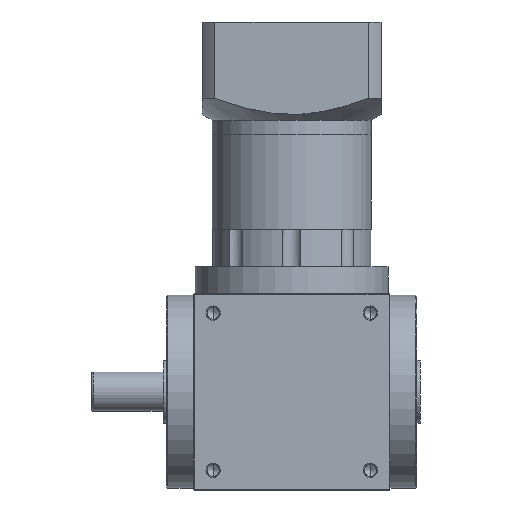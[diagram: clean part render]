
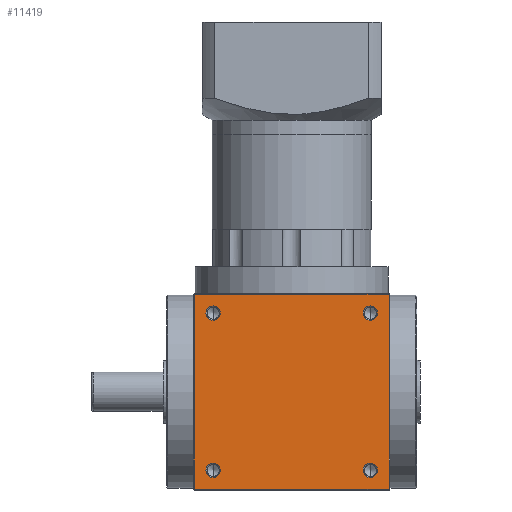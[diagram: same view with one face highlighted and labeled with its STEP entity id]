
A CAD part, front view. The second image highlights one B-rep face of the part: STEP entity #11419.
In plain terms, the highlighted planar face has unit normal (0, -1, 0).
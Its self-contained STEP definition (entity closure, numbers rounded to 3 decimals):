
#298 = EDGE_CURVE ( 'NONE', #53204, #52734, #40388, .T. ) ;
#470 = VECTOR ( 'NONE', #57929, 1000. ) ;
#1123 = DIRECTION ( 'NONE',  ( 0., -1., 0. ) ) ;
#1604 = EDGE_CURVE ( 'NONE', #57596, #33263, #49870, .T. ) ;
#1975 = CARTESIAN_POINT ( 'NONE',  ( 48.025, -55., 11. ) ) ;
#4214 = EDGE_CURVE ( 'NONE', #14198, #54497, #50843, .T. ) ;
#4558 = EDGE_CURVE ( 'NONE', #33263, #57596, #18813, .T. ) ;
#4854 = LINE ( 'NONE', #14143, #22149 ) ;
#5486 = ORIENTED_EDGE ( 'NONE', *, *, #51640, .F. ) ;
#5543 = ORIENTED_EDGE ( 'NONE', *, *, #47655, .F. ) ;
#5616 = LINE ( 'NONE', #16375, #28642 ) ;
#6677 = AXIS2_PLACEMENT_3D ( 'NONE', #10328, #41986, #14937 ) ;
#7039 = CARTESIAN_POINT ( 'NONE',  ( -44., -55., 99. ) ) ;
#8864 = EDGE_CURVE ( 'NONE', #52734, #53204, #42309, .T. ) ;
#9305 = AXIS2_PLACEMENT_3D ( 'NONE', #37489, #37379, #37258 ) ;
#9416 = EDGE_LOOP ( 'NONE', ( #11271, #11679 ) ) ;
#9746 = CIRCLE ( 'NONE', #6677, 4.025 ) ;
#10328 = CARTESIAN_POINT ( 'NONE',  ( -44., -55., 99. ) ) ;
#11032 = CARTESIAN_POINT ( 'NONE',  ( 39.975, -55., 99. ) ) ;
#11271 = ORIENTED_EDGE ( 'NONE', *, *, #23111, .F. ) ;
#11354 = LINE ( 'NONE', #13397, #470 ) ;
#11419 = ADVANCED_FACE ( 'NONE', ( #16734, #50922, #27514, #39398, #40789 ), #16834, .F. ) ;
#11679 = ORIENTED_EDGE ( 'NONE', *, *, #47392, .F. ) ;
#11684 = DIRECTION ( 'NONE',  ( 1., 0., 0. ) ) ;
#11965 = CARTESIAN_POINT ( 'NONE',  ( -39.975, -55., 11. ) ) ;
#12004 = ORIENTED_EDGE ( 'NONE', *, *, #17728, .F. ) ;
#12458 = EDGE_LOOP ( 'NONE', ( #16208, #47914 ) ) ;
#13397 = CARTESIAN_POINT ( 'NONE',  ( -54.5, -55., 110. ) ) ;
#14078 = CIRCLE ( 'NONE', #45127, 4.025 ) ;
#14143 = CARTESIAN_POINT ( 'NONE',  ( -55., -55., 109.5 ) ) ;
#14198 = VERTEX_POINT ( 'NONE', #50134 ) ;
#14937 = DIRECTION ( 'NONE',  ( 1., 0., 0. ) ) ;
#15940 = EDGE_LOOP ( 'NONE', ( #12004, #5543, #53519, #5486 ) ) ;
#16208 = ORIENTED_EDGE ( 'NONE', *, *, #298, .F. ) ;
#16375 = CARTESIAN_POINT ( 'NONE',  ( 54.5, -55., 110. ) ) ;
#16657 = DIRECTION ( 'NONE',  ( 0., 0., 1. ) ) ;
#16712 = DIRECTION ( 'NONE',  ( 0., 1., 0. ) ) ;
#16734 = FACE_BOUND ( 'NONE', #28481, .T. ) ;
#16834 = PLANE ( 'NONE',  #42585 ) ;
#16852 = CARTESIAN_POINT ( 'NONE',  ( -55., -55., 110. ) ) ;
#17728 = EDGE_CURVE ( 'NONE', #31740, #42758, #4854, .T. ) ;
#18813 = CIRCLE ( 'NONE', #9305, 4.025 ) ;
#20458 = VERTEX_POINT ( 'NONE', #11032 ) ;
#21335 = CARTESIAN_POINT ( 'NONE',  ( -54.5, -55., 109.5 ) ) ;
#21439 = CIRCLE ( 'NONE', #23681, 4.025 ) ;
#22134 = DIRECTION ( 'NONE',  ( 1., 0., 0. ) ) ;
#22142 = DIRECTION ( 'NONE',  ( 0., -1., 0. ) ) ;
#22149 = VECTOR ( 'NONE', #45548, 1000. ) ;
#22223 = CARTESIAN_POINT ( 'NONE',  ( -44., -55., 11. ) ) ;
#23111 = EDGE_CURVE ( 'NONE', #32199, #20458, #14078, .T. ) ;
#23605 = CARTESIAN_POINT ( 'NONE',  ( 39.975, -55., 11. ) ) ;
#23681 = AXIS2_PLACEMENT_3D ( 'NONE', #28677, #1123, #33191 ) ;
#25635 = DIRECTION ( 'NONE',  ( 0., 0., -1. ) ) ;
#26147 = EDGE_LOOP ( 'NONE', ( #33719, #27797 ) ) ;
#27012 = DIRECTION ( 'NONE',  ( 0., -1., 0. ) ) ;
#27514 = FACE_BOUND ( 'NONE', #26147, .T. ) ;
#27797 = ORIENTED_EDGE ( 'NONE', *, *, #39003, .F. ) ;
#28339 = CARTESIAN_POINT ( 'NONE',  ( -48.025, -55., 99. ) ) ;
#28481 = EDGE_LOOP ( 'NONE', ( #57281, #40175 ) ) ;
#28642 = VECTOR ( 'NONE', #25635, 1000. ) ;
#28677 = CARTESIAN_POINT ( 'NONE',  ( 44., -55., 99. ) ) ;
#30886 = CARTESIAN_POINT ( 'NONE',  ( -54.5, -55., 0.5 ) ) ;
#31740 = VERTEX_POINT ( 'NONE', #21335 ) ;
#31811 = DIRECTION ( 'NONE',  ( 1., 0., 0. ) ) ;
#31865 = DIRECTION ( 'NONE',  ( 0., -1., 0. ) ) ;
#31876 = CARTESIAN_POINT ( 'NONE',  ( 44., -55., 11. ) ) ;
#31997 = DIRECTION ( 'NONE',  ( 1., 0., 0. ) ) ;
#32192 = DIRECTION ( 'NONE',  ( 0., -1., 0. ) ) ;
#32199 = VERTEX_POINT ( 'NONE', #55668 ) ;
#32386 = CARTESIAN_POINT ( 'NONE',  ( -44., -55., 11. ) ) ;
#32986 = VERTEX_POINT ( 'NONE', #53665 ) ;
#33191 = DIRECTION ( 'NONE',  ( 1., 0., 0. ) ) ;
#33263 = VERTEX_POINT ( 'NONE', #1975 ) ;
#33719 = ORIENTED_EDGE ( 'NONE', *, *, #38186, .F. ) ;
#34285 = AXIS2_PLACEMENT_3D ( 'NONE', #32386, #32192, #31997 ) ;
#34365 = CARTESIAN_POINT ( 'NONE',  ( 54.5, -55., 109.5 ) ) ;
#35911 = AXIS2_PLACEMENT_3D ( 'NONE', #31876, #31865, #31811 ) ;
#36604 = VERTEX_POINT ( 'NONE', #28339 ) ;
#37258 = DIRECTION ( 'NONE',  ( 1., 0., 0. ) ) ;
#37379 = DIRECTION ( 'NONE',  ( 0., -1., 0. ) ) ;
#37489 = CARTESIAN_POINT ( 'NONE',  ( 44., -55., 11. ) ) ;
#38186 = EDGE_CURVE ( 'NONE', #32986, #36604, #55812, .T. ) ;
#38860 = DIRECTION ( 'NONE',  ( 0., -1., 0. ) ) ;
#39003 = EDGE_CURVE ( 'NONE', #36604, #32986, #9746, .T. ) ;
#39398 = FACE_BOUND ( 'NONE', #12458, .T. ) ;
#40175 = ORIENTED_EDGE ( 'NONE', *, *, #1604, .F. ) ;
#40388 = CIRCLE ( 'NONE', #51909, 4.025 ) ;
#40789 = FACE_OUTER_BOUND ( 'NONE', #15940, .T. ) ;
#41986 = DIRECTION ( 'NONE',  ( 0., -1., 0. ) ) ;
#42309 = CIRCLE ( 'NONE', #34285, 4.025 ) ;
#42585 = AXIS2_PLACEMENT_3D ( 'NONE', #16852, #16712, #16657 ) ;
#42758 = VERTEX_POINT ( 'NONE', #34365 ) ;
#43450 = AXIS2_PLACEMENT_3D ( 'NONE', #7039, #38860, #11684 ) ;
#45127 = AXIS2_PLACEMENT_3D ( 'NONE', #53350, #27012, #57710 ) ;
#45548 = DIRECTION ( 'NONE',  ( 1., 0., 0. ) ) ;
#47392 = EDGE_CURVE ( 'NONE', #20458, #32199, #21439, .T. ) ;
#47655 = EDGE_CURVE ( 'NONE', #54497, #31740, #11354, .T. ) ;
#47914 = ORIENTED_EDGE ( 'NONE', *, *, #8864, .F. ) ;
#49870 = CIRCLE ( 'NONE', #35911, 4.025 ) ;
#50134 = CARTESIAN_POINT ( 'NONE',  ( 54.5, -55., 0.5 ) ) ;
#50412 = VECTOR ( 'NONE', #54344, 1000. ) ;
#50843 = LINE ( 'NONE', #54727, #50412 ) ;
#50922 = FACE_BOUND ( 'NONE', #9416, .T. ) ;
#51640 = EDGE_CURVE ( 'NONE', #42758, #14198, #5616, .T. ) ;
#51909 = AXIS2_PLACEMENT_3D ( 'NONE', #22223, #22142, #22134 ) ;
#52734 = VERTEX_POINT ( 'NONE', #57214 ) ;
#53204 = VERTEX_POINT ( 'NONE', #11965 ) ;
#53350 = CARTESIAN_POINT ( 'NONE',  ( 44., -55., 99. ) ) ;
#53519 = ORIENTED_EDGE ( 'NONE', *, *, #4214, .F. ) ;
#53665 = CARTESIAN_POINT ( 'NONE',  ( -39.975, -55., 99. ) ) ;
#54344 = DIRECTION ( 'NONE',  ( -1., 0., 0. ) ) ;
#54497 = VERTEX_POINT ( 'NONE', #30886 ) ;
#54727 = CARTESIAN_POINT ( 'NONE',  ( -55., -55., 0.5 ) ) ;
#55668 = CARTESIAN_POINT ( 'NONE',  ( 48.025, -55., 99. ) ) ;
#55812 = CIRCLE ( 'NONE', #43450, 4.025 ) ;
#57214 = CARTESIAN_POINT ( 'NONE',  ( -48.025, -55., 11. ) ) ;
#57281 = ORIENTED_EDGE ( 'NONE', *, *, #4558, .F. ) ;
#57596 = VERTEX_POINT ( 'NONE', #23605 ) ;
#57710 = DIRECTION ( 'NONE',  ( 1., 0., 0. ) ) ;
#57929 = DIRECTION ( 'NONE',  ( 0., 0., 1. ) ) ;
